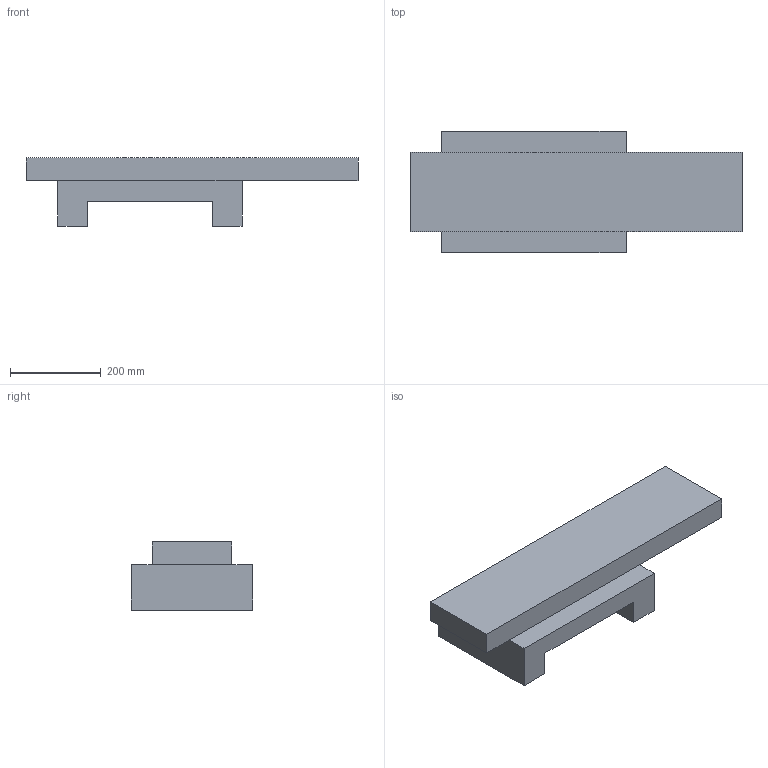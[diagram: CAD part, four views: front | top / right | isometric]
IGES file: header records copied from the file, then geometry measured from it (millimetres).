
Start section: SolidWorks IGES FILE using analytic representation for surfaces
Global section: file name: C:\Documents and Settings\lepoivre\Mes documents\Formation continue\NCSIMUL\aurelie\y.IGS; native system: SolidWorks 2003 by SolidWorks Corporation; preprocessor: Version 5.3; author: lepoivre; date: 050317.180637; units: millimetre
Bounding box: 730 x 267 x 150 mm (x, y, z)
Surface area: 554040 mm2 (no closed solid volume)
Topology: 0 solids, 0 shells, 18 faces, 88 edges, 88 vertices
Faces by surface type: bspline 18
